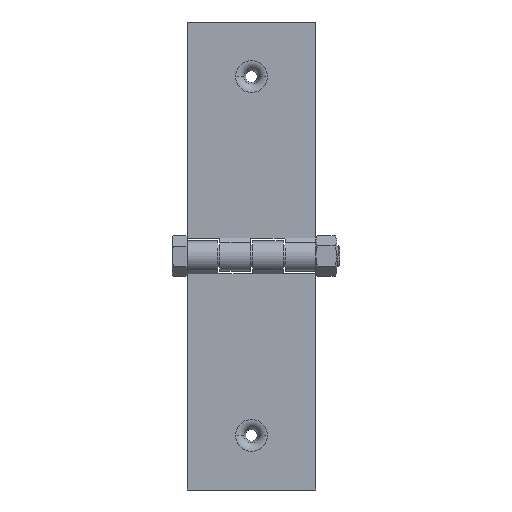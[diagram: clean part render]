
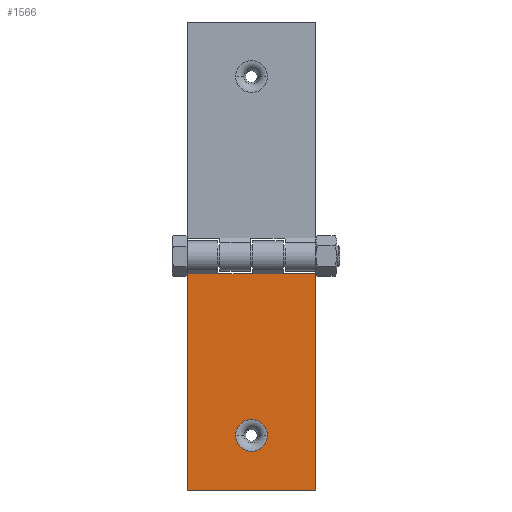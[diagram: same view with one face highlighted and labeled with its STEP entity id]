
A CAD part, left-side view. The second image highlights one B-rep face of the part: STEP entity #1566.
In plain terms, the highlighted planar face has unit normal (-1, 0, 0) as drawn and (1, 0, 0) by its records, which use the part's own axes.
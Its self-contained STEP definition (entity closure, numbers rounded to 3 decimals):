
#228 = CARTESIAN_POINT ( 'NONE',  ( 1.5, -15.5, 50. ) ) ;
#506 = VERTEX_POINT ( 'NONE', #8848 ) ;
#510 = DIRECTION ( 'NONE',  ( 0., -1., 0. ) ) ;
#522 = VERTEX_POINT ( 'NONE', #10643 ) ;
#624 = LINE ( 'NONE', #16811, #4910 ) ;
#662 = DIRECTION ( 'NONE',  ( 0., 0., -1. ) ) ;
#808 = PLANE ( 'NONE',  #19297 ) ;
#824 = VERTEX_POINT ( 'NONE', #8827 ) ;
#842 = EDGE_CURVE ( 'NONE', #19135, #22009, #7042, .T. ) ;
#901 = LINE ( 'NONE', #4485, #2455 ) ;
#1309 = DIRECTION ( 'NONE',  ( 0., -1., 0. ) ) ;
#1316 = ORIENTED_EDGE ( 'NONE', *, *, #19034, .T. ) ;
#1507 = ORIENTED_EDGE ( 'NONE', *, *, #13821, .T. ) ;
#1566 = ADVANCED_FACE ( 'NONE', ( #17115, #2602 ), #808, .F. ) ;
#2048 = EDGE_CURVE ( 'NONE', #824, #522, #19696, .T. ) ;
#2225 = LINE ( 'NONE', #13306, #2880 ) ;
#2340 = CARTESIAN_POINT ( 'NONE',  ( 1.5, 7.301, -25. ) ) ;
#2455 = VECTOR ( 'NONE', #11752, 1000. ) ;
#2513 = ORIENTED_EDGE ( 'NONE', *, *, #842, .T. ) ;
#2532 = CIRCLE ( 'NONE', #18496, 7.301 ) ;
#2602 = FACE_OUTER_BOUND ( 'NONE', #14662, .T. ) ;
#2620 = CARTESIAN_POINT ( 'NONE',  ( 1.5, -29.5, 50. ) ) ;
#2880 = VECTOR ( 'NONE', #662, 1000. ) ;
#3336 = CARTESIAN_POINT ( 'NONE',  ( 1.5, -29.5, 50. ) ) ;
#3400 = DIRECTION ( 'NONE',  ( 0., 0., 1. ) ) ;
#3510 = DIRECTION ( 'NONE',  ( 1., 0., 0. ) ) ;
#4485 = CARTESIAN_POINT ( 'NONE',  ( 1.5, -29.5, -50. ) ) ;
#4601 = CARTESIAN_POINT ( 'NONE',  ( 1.5, 0.5, 49. ) ) ;
#4852 = VECTOR ( 'NONE', #11757, 1000. ) ;
#4910 = VECTOR ( 'NONE', #510, 1000. ) ;
#5064 = CARTESIAN_POINT ( 'NONE',  ( 1.5, 14.5, 49. ) ) ;
#5128 = DIRECTION ( 'NONE',  ( 1., 0., 0. ) ) ;
#5244 = CARTESIAN_POINT ( 'NONE',  ( 1.5, 0., -25. ) ) ;
#6038 = VECTOR ( 'NONE', #9888, 1000. ) ;
#6276 = CARTESIAN_POINT ( 'NONE',  ( 1.5, 29.5, 49. ) ) ;
#6414 = DIRECTION ( 'NONE',  ( -1., 0., 0. ) ) ;
#7042 = LINE ( 'NONE', #15827, #15535 ) ;
#7277 = DIRECTION ( 'NONE',  ( 0., 0., 1. ) ) ;
#7318 = VECTOR ( 'NONE', #22956, 1000. ) ;
#7390 = VECTOR ( 'NONE', #17603, 1000. ) ;
#7497 = EDGE_CURVE ( 'NONE', #22009, #824, #22685, .T. ) ;
#8681 = VECTOR ( 'NONE', #3400, 1000. ) ;
#8827 = CARTESIAN_POINT ( 'NONE',  ( 1.5, 14.5, 49. ) ) ;
#8848 = CARTESIAN_POINT ( 'NONE',  ( 1.5, -15.5, 49. ) ) ;
#9732 = CARTESIAN_POINT ( 'NONE',  ( 1.5, 29.5, -50. ) ) ;
#9888 = DIRECTION ( 'NONE',  ( 0., 0., -1. ) ) ;
#9972 = EDGE_CURVE ( 'NONE', #12118, #21722, #624, .T. ) ;
#10078 = LINE ( 'NONE', #4601, #21665 ) ;
#10643 = CARTESIAN_POINT ( 'NONE',  ( 1.5, 14.5, 50. ) ) ;
#11034 = ORIENTED_EDGE ( 'NONE', *, *, #18323, .T. ) ;
#11139 = AXIS2_PLACEMENT_3D ( 'NONE', #23491, #3510, #12320 ) ;
#11195 = EDGE_CURVE ( 'NONE', #12440, #506, #10078, .T. ) ;
#11293 = ORIENTED_EDGE ( 'NONE', *, *, #16106, .T. ) ;
#11752 = DIRECTION ( 'NONE',  ( 0., 1., 0. ) ) ;
#11757 = DIRECTION ( 'NONE',  ( 0., -1., 0. ) ) ;
#11963 = ORIENTED_EDGE ( 'NONE', *, *, #7497, .T. ) ;
#12118 = VERTEX_POINT ( 'NONE', #228 ) ;
#12320 = DIRECTION ( 'NONE',  ( 0., -1., 0. ) ) ;
#12440 = VERTEX_POINT ( 'NONE', #18264 ) ;
#13306 = CARTESIAN_POINT ( 'NONE',  ( 1.5, 0.5, 50. ) ) ;
#13786 = CARTESIAN_POINT ( 'NONE',  ( 1.5, 0.5, 50. ) ) ;
#13821 = EDGE_CURVE ( 'NONE', #506, #12118, #21162, .T. ) ;
#14572 = EDGE_CURVE ( 'NONE', #18277, #21161, #16452, .T. ) ;
#14662 = EDGE_LOOP ( 'NONE', ( #23130, #1507, #19943, #17259, #11034, #2513, #11963, #21612, #11293, #1316 ) ) ;
#14743 = EDGE_LOOP ( 'NONE', ( #18091, #19512 ) ) ;
#14928 = CARTESIAN_POINT ( 'NONE',  ( 1.5, 29.5, 49. ) ) ;
#15077 = VERTEX_POINT ( 'NONE', #13786 ) ;
#15328 = CARTESIAN_POINT ( 'NONE',  ( 1.5, 29.5, 50. ) ) ;
#15535 = VECTOR ( 'NONE', #7277, 1000. ) ;
#15569 = DIRECTION ( 'NONE',  ( 0., 0., 1. ) ) ;
#15775 = CARTESIAN_POINT ( 'NONE',  ( 1.5, -29.5, 50. ) ) ;
#15827 = CARTESIAN_POINT ( 'NONE',  ( 1.5, 29.5, 50. ) ) ;
#16106 = EDGE_CURVE ( 'NONE', #522, #15077, #23083, .T. ) ;
#16452 = CIRCLE ( 'NONE', #11139, 7.301 ) ;
#16811 = CARTESIAN_POINT ( 'NONE',  ( 1.5, -29.5, 50. ) ) ;
#17115 = FACE_BOUND ( 'NONE', #14743, .T. ) ;
#17259 = ORIENTED_EDGE ( 'NONE', *, *, #23492, .T. ) ;
#17431 = DIRECTION ( 'NONE',  ( 0., -1., 0. ) ) ;
#17603 = DIRECTION ( 'NONE',  ( 0., -1., 0. ) ) ;
#18091 = ORIENTED_EDGE ( 'NONE', *, *, #20093, .F. ) ;
#18264 = CARTESIAN_POINT ( 'NONE',  ( 1.5, 0.5, 49. ) ) ;
#18277 = VERTEX_POINT ( 'NONE', #2340 ) ;
#18323 = EDGE_CURVE ( 'NONE', #19209, #19135, #901, .T. ) ;
#18496 = AXIS2_PLACEMENT_3D ( 'NONE', #5244, #5128, #1309 ) ;
#18915 = LINE ( 'NONE', #2620, #6038 ) ;
#19034 = EDGE_CURVE ( 'NONE', #15077, #12440, #2225, .T. ) ;
#19135 = VERTEX_POINT ( 'NONE', #9732 ) ;
#19209 = VERTEX_POINT ( 'NONE', #19472 ) ;
#19297 = AXIS2_PLACEMENT_3D ( 'NONE', #15328, #6414, #15569 ) ;
#19472 = CARTESIAN_POINT ( 'NONE',  ( 1.5, -29.5, -50. ) ) ;
#19512 = ORIENTED_EDGE ( 'NONE', *, *, #14572, .F. ) ;
#19696 = LINE ( 'NONE', #5064, #8681 ) ;
#19943 = ORIENTED_EDGE ( 'NONE', *, *, #9972, .T. ) ;
#20093 = EDGE_CURVE ( 'NONE', #21161, #18277, #2532, .T. ) ;
#21048 = CARTESIAN_POINT ( 'NONE',  ( 1.5, -15.5, 50. ) ) ;
#21161 = VERTEX_POINT ( 'NONE', #21736 ) ;
#21162 = LINE ( 'NONE', #21048, #7318 ) ;
#21612 = ORIENTED_EDGE ( 'NONE', *, *, #2048, .T. ) ;
#21665 = VECTOR ( 'NONE', #17431, 1000. ) ;
#21722 = VERTEX_POINT ( 'NONE', #15775 ) ;
#21736 = CARTESIAN_POINT ( 'NONE',  ( 1.5, -7.301, -25. ) ) ;
#22009 = VERTEX_POINT ( 'NONE', #14928 ) ;
#22685 = LINE ( 'NONE', #6276, #4852 ) ;
#22956 = DIRECTION ( 'NONE',  ( 0., 0., 1. ) ) ;
#23083 = LINE ( 'NONE', #3336, #7390 ) ;
#23130 = ORIENTED_EDGE ( 'NONE', *, *, #11195, .T. ) ;
#23491 = CARTESIAN_POINT ( 'NONE',  ( 1.5, 0., -25. ) ) ;
#23492 = EDGE_CURVE ( 'NONE', #21722, #19209, #18915, .T. ) ;
